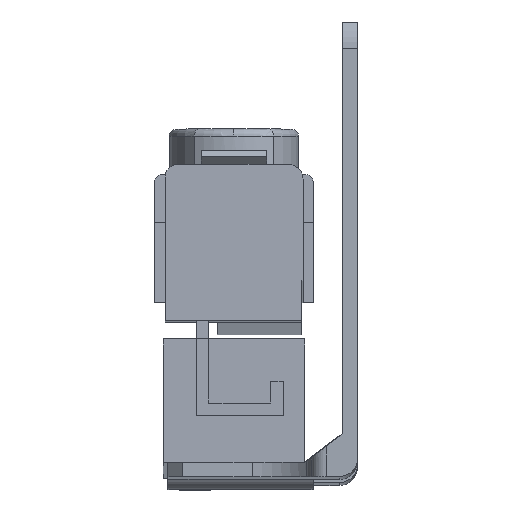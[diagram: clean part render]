
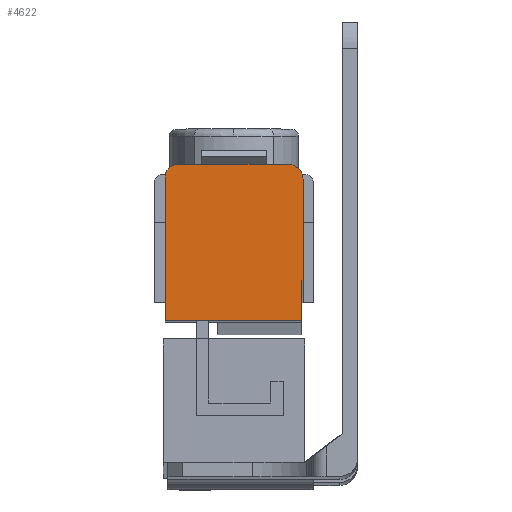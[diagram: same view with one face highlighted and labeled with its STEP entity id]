
A CAD part, front view. The second image highlights one B-rep face of the part: STEP entity #4622.
In plain terms, the highlighted planar face has unit normal (0, -1, 0.005).
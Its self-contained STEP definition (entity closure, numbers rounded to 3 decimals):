
#1 = CARTESIAN_POINT ( 'NONE',  ( -7.5, -25.258, -20.659 ) ) ;
#292 = VERTEX_POINT ( 'NONE', #1065 ) ;
#303 = VERTEX_POINT ( 'NONE', #1 ) ;
#304 = VERTEX_POINT ( 'NONE', #4351 ) ;
#334 = VERTEX_POINT ( 'NONE', #4509 ) ;
#348 = VERTEX_POINT ( 'NONE', #4530 ) ;
#383 = VERTEX_POINT ( 'NONE', #4358 ) ;
#388 = VERTEX_POINT ( 'NONE', #4415 ) ;
#392 = VERTEX_POINT ( 'NONE', #4490 ) ;
#1065 = CARTESIAN_POINT ( 'NONE',  ( -26.5, -25.183, -6.409 ) ) ;
#1467 = PLANE ( 'NONE',  #3667 ) ;
#1468 = CARTESIAN_POINT ( 'NONE',  ( -24.75, -25.183, -6.409 ) ) ;
#1469 = DIRECTION ( 'NONE',  ( 0., -1., 0.005 ) ) ;
#1470 = DIRECTION ( 'NONE',  ( 0., -0.005, -1. ) ) ;
#1755 = FACE_OUTER_BOUND ( 'NONE', #5065, .T. ) ;
#2055 = ORIENTED_EDGE ( 'NONE', *, *, #3347, .T. ) ;
#2056 = ORIENTED_EDGE ( 'NONE', *, *, #3351, .T. ) ;
#2057 = ORIENTED_EDGE ( 'NONE', *, *, #3350, .T. ) ;
#2058 = ORIENTED_EDGE ( 'NONE', *, *, #3346, .T. ) ;
#2059 = ORIENTED_EDGE ( 'NONE', *, *, #3342, .T. ) ;
#2060 = ORIENTED_EDGE ( 'NONE', *, *, #3339, .T. ) ;
#2061 = ORIENTED_EDGE ( 'NONE', *, *, #3335, .T. ) ;
#2062 = ORIENTED_EDGE ( 'NONE', *, *, #3332, .T. ) ;
#2951 = CARTESIAN_POINT ( 'NONE',  ( -7.5, -25.185, -6.709 ) ) ;
#2952 = DIRECTION ( 'NONE',  ( 0., 0.005, 1. ) ) ;
#2957 = CARTESIAN_POINT ( 'NONE',  ( -9.55, -25.185, -6.709 ) ) ;
#2958 = DIRECTION ( 'NONE',  ( 0., -1., 0.005 ) ) ;
#2959 = DIRECTION ( 'NONE',  ( 0., 0.005, 1. ) ) ;
#2966 = CARTESIAN_POINT ( 'NONE',  ( -24.75, -25.174, -4.659 ) ) ;
#2967 = DIRECTION ( 'NONE',  ( -1., 0., 0. ) ) ;
#2972 = CARTESIAN_POINT ( 'NONE',  ( -24.75, -25.183, -6.409 ) ) ;
#2973 = DIRECTION ( 'NONE',  ( 0., -1., 0.005 ) ) ;
#2974 = DIRECTION ( 'NONE',  ( 0., -0.005, -1. ) ) ;
#2981 = CARTESIAN_POINT ( 'NONE',  ( -26.5, -25.183, -6.409 ) ) ;
#2982 = DIRECTION ( 'NONE',  ( 0., -0.005, -1. ) ) ;
#2983 = CARTESIAN_POINT ( 'NONE',  ( -26.5, -25.258, -20.659 ) ) ;
#2984 = DIRECTION ( 'NONE',  ( 1., 0., 0. ) ) ;
#2989 = CARTESIAN_POINT ( 'NONE',  ( -7.75, -25.287, -26.159 ) ) ;
#2990 = DIRECTION ( 'NONE',  ( 1., 0., 0. ) ) ;
#2991 = CARTESIAN_POINT ( 'NONE',  ( -7.75, -25.287, -26.159 ) ) ;
#2992 = DIRECTION ( 'NONE',  ( 0., 0.005, 1. ) ) ;
#3332 = EDGE_CURVE ( 'NONE', #303, #348, #3959, .T. ) ;
#3335 = EDGE_CURVE ( 'NONE', #348, #388, #3966, .T. ) ;
#3339 = EDGE_CURVE ( 'NONE', #388, #304, #3972, .T. ) ;
#3342 = EDGE_CURVE ( 'NONE', #304, #292, #3979, .T. ) ;
#3346 = EDGE_CURVE ( 'NONE', #292, #392, #3985, .T. ) ;
#3347 = EDGE_CURVE ( 'NONE', #334, #303, #3987, .T. ) ;
#3350 = EDGE_CURVE ( 'NONE', #392, #383, #3993, .T. ) ;
#3351 = EDGE_CURVE ( 'NONE', #383, #334, #3995, .T. ) ;
#3567 = AXIS2_PLACEMENT_3D ( 'NONE', #2957, #2958, #2959 ) ;
#3568 = AXIS2_PLACEMENT_3D ( 'NONE', #2972, #2973, #2974 ) ;
#3667 = AXIS2_PLACEMENT_3D ( 'NONE', #1468, #1469, #1470 ) ;
#3959 = LINE ( 'NONE', #2951, #3960 ) ;
#3960 = VECTOR ( 'NONE', #2952, 1000. ) ;
#3966 = CIRCLE ( 'NONE', #3567, 2.05 ) ;
#3972 = LINE ( 'NONE', #2966, #3973 ) ;
#3973 = VECTOR ( 'NONE', #2967, 1000. ) ;
#3979 = CIRCLE ( 'NONE', #3568, 1.75 ) ;
#3985 = LINE ( 'NONE', #2981, #3986 ) ;
#3986 = VECTOR ( 'NONE', #2982, 1000. ) ;
#3987 = LINE ( 'NONE', #2983, #3988 ) ;
#3988 = VECTOR ( 'NONE', #2984, 1000. ) ;
#3993 = LINE ( 'NONE', #2989, #3994 ) ;
#3994 = VECTOR ( 'NONE', #2990, 1000. ) ;
#3995 = LINE ( 'NONE', #2991, #3996 ) ;
#3996 = VECTOR ( 'NONE', #2992, 1000. ) ;
#4351 = CARTESIAN_POINT ( 'NONE',  ( -24.75, -25.174, -4.659 ) ) ;
#4358 = CARTESIAN_POINT ( 'NONE',  ( -7.75, -25.287, -26.159 ) ) ;
#4415 = CARTESIAN_POINT ( 'NONE',  ( -9.55, -25.174, -4.659 ) ) ;
#4490 = CARTESIAN_POINT ( 'NONE',  ( -26.5, -25.287, -26.159 ) ) ;
#4509 = CARTESIAN_POINT ( 'NONE',  ( -7.75, -25.258, -20.659 ) ) ;
#4530 = CARTESIAN_POINT ( 'NONE',  ( -7.5, -25.185, -6.709 ) ) ;
#4622 = ADVANCED_FACE ( 'NONE', ( #1755 ), #1467, .T. ) ;
#5065 = EDGE_LOOP ( 'NONE', ( #2062, #2061, #2060, #2059, #2058, #2057, #2056, #2055 ) ) ;
